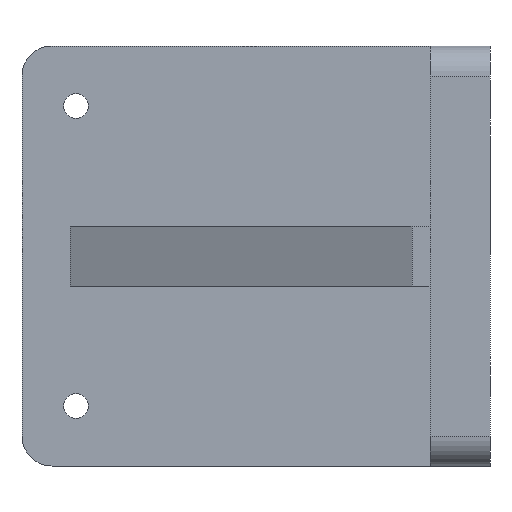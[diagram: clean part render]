
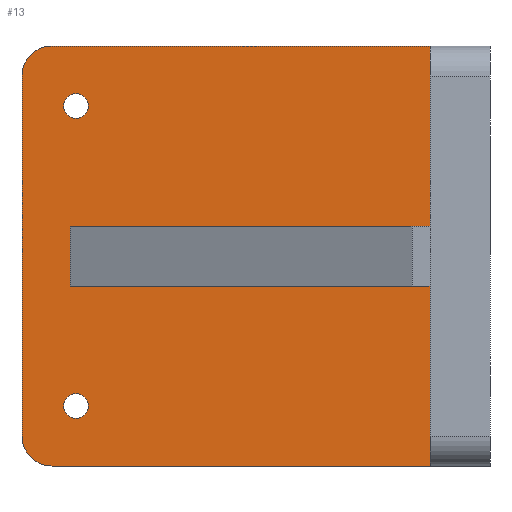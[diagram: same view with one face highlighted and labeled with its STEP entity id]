
A CAD part, left-side view. The second image highlights one B-rep face of the part: STEP entity #13.
In plain terms, the highlighted planar face has unit normal (-1, 0, 0).
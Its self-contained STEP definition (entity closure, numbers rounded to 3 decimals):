
#6 = CIRCLE ( 'NONE', #521, 2.067 ) ;
#13 = ADVANCED_FACE ( 'NONE', ( #124, #700, #510 ), #275, .F. ) ;
#15 = CIRCLE ( 'NONE', #176, 5. ) ;
#62 = DIRECTION ( 'NONE',  ( 0., 0., -1. ) ) ;
#71 = LINE ( 'NONE', #596, #441 ) ;
#87 = CARTESIAN_POINT ( 'NONE',  ( -10., 73., 35. ) ) ;
#101 = DIRECTION ( 'NONE',  ( 0., -1., 0. ) ) ;
#102 = VECTOR ( 'NONE', #513, 1000. ) ;
#116 = CARTESIAN_POINT ( 'NONE',  ( -10., 78., 35. ) ) ;
#124 = FACE_BOUND ( 'NONE', #138, .T. ) ;
#126 = VERTEX_POINT ( 'NONE', #225 ) ;
#129 = DIRECTION ( 'NONE',  ( 0., 0., -1. ) ) ;
#138 = EDGE_LOOP ( 'NONE', ( #543, #919 ) ) ;
#153 = VERTEX_POINT ( 'NONE', #1152 ) ;
#155 = AXIS2_PLACEMENT_3D ( 'NONE', #467, #660, #62 ) ;
#176 = AXIS2_PLACEMENT_3D ( 'NONE', #471, #680, #1085 ) ;
#184 = CARTESIAN_POINT ( 'NONE',  ( -10., 10., 35. ) ) ;
#199 = LINE ( 'NONE', #184, #224 ) ;
#205 = EDGE_CURVE ( 'NONE', #843, #424, #894, .T. ) ;
#224 = VECTOR ( 'NONE', #733, 1000. ) ;
#225 = CARTESIAN_POINT ( 'NONE',  ( -10., 69., -22.933 ) ) ;
#240 = LINE ( 'NONE', #116, #102 ) ;
#249 = CIRCLE ( 'NONE', #155, 2.067 ) ;
#275 = PLANE ( 'NONE',  #1154 ) ;
#280 = CARTESIAN_POINT ( 'NONE',  ( -10., 73., -35. ) ) ;
#318 = EDGE_CURVE ( 'NONE', #752, #455, #6, .T. ) ;
#320 = ORIENTED_EDGE ( 'NONE', *, *, #1155, .T. ) ;
#326 = EDGE_CURVE ( 'NONE', #126, #153, #801, .T. ) ;
#328 = CARTESIAN_POINT ( 'NONE',  ( -10., 10., 35. ) ) ;
#338 = ORIENTED_EDGE ( 'NONE', *, *, #499, .T. ) ;
#375 = ORIENTED_EDGE ( 'NONE', *, *, #205, .F. ) ;
#391 = ORIENTED_EDGE ( 'NONE', *, *, #987, .T. ) ;
#416 = CARTESIAN_POINT ( 'NONE',  ( -10., 78., 30. ) ) ;
#419 = VECTOR ( 'NONE', #984, 1000. ) ;
#424 = VERTEX_POINT ( 'NONE', #328 ) ;
#441 = VECTOR ( 'NONE', #101, 1000. ) ;
#455 = VERTEX_POINT ( 'NONE', #829 ) ;
#467 = CARTESIAN_POINT ( 'NONE',  ( -10., 69., 25. ) ) ;
#471 = CARTESIAN_POINT ( 'NONE',  ( -10., 73., -30. ) ) ;
#477 = DIRECTION ( 'NONE',  ( 1., 0., 0. ) ) ;
#478 = AXIS2_PLACEMENT_3D ( 'NONE', #770, #944, #985 ) ;
#496 = VERTEX_POINT ( 'NONE', #693 ) ;
#499 = EDGE_CURVE ( 'NONE', #907, #496, #240, .T. ) ;
#510 = FACE_OUTER_BOUND ( 'NONE', #931, .T. ) ;
#513 = DIRECTION ( 'NONE',  ( 0., 0., -1. ) ) ;
#521 = AXIS2_PLACEMENT_3D ( 'NONE', #619, #1112, #129 ) ;
#543 = ORIENTED_EDGE ( 'NONE', *, *, #865, .T. ) ;
#571 = EDGE_CURVE ( 'NONE', #424, #916, #199, .T. ) ;
#574 = CIRCLE ( 'NONE', #788, 5. ) ;
#590 = AXIS2_PLACEMENT_3D ( 'NONE', #999, #477, #1021 ) ;
#596 = CARTESIAN_POINT ( 'NONE',  ( -10., 10., -35. ) ) ;
#610 = ORIENTED_EDGE ( 'NONE', *, *, #326, .T. ) ;
#619 = CARTESIAN_POINT ( 'NONE',  ( -10., 69., 25. ) ) ;
#629 = ORIENTED_EDGE ( 'NONE', *, *, #895, .T. ) ;
#635 = ORIENTED_EDGE ( 'NONE', *, *, #571, .F. ) ;
#657 = CARTESIAN_POINT ( 'NONE',  ( -10., 69., 27.067 ) ) ;
#660 = DIRECTION ( 'NONE',  ( 1., 0., 0. ) ) ;
#680 = DIRECTION ( 'NONE',  ( -1., 0., 0. ) ) ;
#691 = CARTESIAN_POINT ( 'NONE',  ( -10., 10., 35. ) ) ;
#693 = CARTESIAN_POINT ( 'NONE',  ( -10., 78., -30. ) ) ;
#700 = FACE_BOUND ( 'NONE', #818, .T. ) ;
#733 = DIRECTION ( 'NONE',  ( 0., 0., -1. ) ) ;
#752 = VERTEX_POINT ( 'NONE', #657 ) ;
#754 = DIRECTION ( 'NONE',  ( 0., 0., -1. ) ) ;
#770 = CARTESIAN_POINT ( 'NONE',  ( -10., 69., -25. ) ) ;
#784 = CARTESIAN_POINT ( 'NONE',  ( -10., 73., 30. ) ) ;
#787 = CARTESIAN_POINT ( 'NONE',  ( -10., 10., -35. ) ) ;
#788 = AXIS2_PLACEMENT_3D ( 'NONE', #784, #1161, #754 ) ;
#800 = CARTESIAN_POINT ( 'NONE',  ( -10., 10., 35. ) ) ;
#801 = CIRCLE ( 'NONE', #590, 2.067 ) ;
#818 = EDGE_LOOP ( 'NONE', ( #391, #610 ) ) ;
#829 = CARTESIAN_POINT ( 'NONE',  ( -10., 69., 22.933 ) ) ;
#843 = VERTEX_POINT ( 'NONE', #87 ) ;
#850 = CIRCLE ( 'NONE', #478, 2.067 ) ;
#863 = DIRECTION ( 'NONE',  ( 1., 0., 0. ) ) ;
#865 = EDGE_CURVE ( 'NONE', #455, #752, #249, .T. ) ;
#894 = LINE ( 'NONE', #691, #419 ) ;
#895 = EDGE_CURVE ( 'NONE', #1135, #916, #71, .T. ) ;
#907 = VERTEX_POINT ( 'NONE', #416 ) ;
#916 = VERTEX_POINT ( 'NONE', #787 ) ;
#919 = ORIENTED_EDGE ( 'NONE', *, *, #318, .T. ) ;
#931 = EDGE_LOOP ( 'NONE', ( #375, #320, #338, #939, #629, #635 ) ) ;
#939 = ORIENTED_EDGE ( 'NONE', *, *, #1164, .T. ) ;
#944 = DIRECTION ( 'NONE',  ( 1., 0., 0. ) ) ;
#984 = DIRECTION ( 'NONE',  ( 0., -1., 0. ) ) ;
#985 = DIRECTION ( 'NONE',  ( 0., 0., -1. ) ) ;
#987 = EDGE_CURVE ( 'NONE', #153, #126, #850, .T. ) ;
#999 = CARTESIAN_POINT ( 'NONE',  ( -10., 69., -25. ) ) ;
#1021 = DIRECTION ( 'NONE',  ( 0., 0., -1. ) ) ;
#1062 = DIRECTION ( 'NONE',  ( 0., 0., -1. ) ) ;
#1085 = DIRECTION ( 'NONE',  ( 0., 0., -1. ) ) ;
#1112 = DIRECTION ( 'NONE',  ( 1., 0., 0. ) ) ;
#1135 = VERTEX_POINT ( 'NONE', #280 ) ;
#1152 = CARTESIAN_POINT ( 'NONE',  ( -10., 69., -27.067 ) ) ;
#1154 = AXIS2_PLACEMENT_3D ( 'NONE', #800, #863, #1062 ) ;
#1155 = EDGE_CURVE ( 'NONE', #843, #907, #574, .T. ) ;
#1161 = DIRECTION ( 'NONE',  ( -1., 0., 0. ) ) ;
#1164 = EDGE_CURVE ( 'NONE', #496, #1135, #15, .T. ) ;
